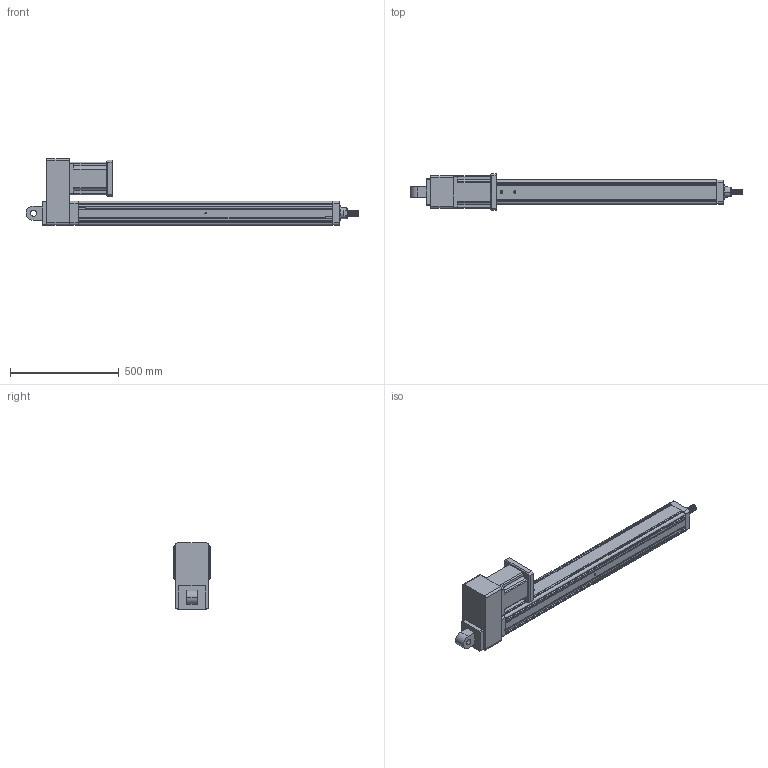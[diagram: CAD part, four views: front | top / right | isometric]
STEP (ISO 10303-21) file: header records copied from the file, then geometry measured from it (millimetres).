
FILE_DESCRIPTION (( 'STEP AP203' ), '1' );
FILE_NAME ('YRJ110-L1000-H6K1.STEP', '2020-01-04T07:07:16', ( 'User' ), ( 'China' ), 'SwSTEP 2.0', 'SolidWorks 2016', '' );
FILE_SCHEMA (( 'CONFIG_CONTROL_DESIGN' ));
Length unit declared in the file: millimetre
Products named in the file (8): K1-110; YRJ110-L1000-H6K1; 095-100俴最倰第; 萇儂碟-110; 142熬厒儂; H5-110-1; H6-110; H3-110-2
Assembly tree (7 placements, depth 2):
  YRJ110-L1000-H6K1
    095-100俴最倰第
    萇儂碟-110
    142熬厒儂
    H5-110-1
    H6-110
    H3-110-2
    K1-110
Bounding box: 1526 x 168 x 305.5 mm (x, y, z)
Volume: 15016316.5 mm3; surface area: 1544674.4 mm2
Topology: 7 solids, 7 shells, 369 faces, 1016 edges, 658 vertices
Faces by surface type: plane 180, cylinder 158, cone 27, bspline 4
Entity records: 20486 total; most frequent: CARTESIAN_POINT 10386, ORIENTED_EDGE 2000, DIRECTION 1860, EDGE_CURVE 1000, VERTEX_POINT 658, LINE 636, VECTOR 636, AXIS2_PLACEMENT_3D 612
